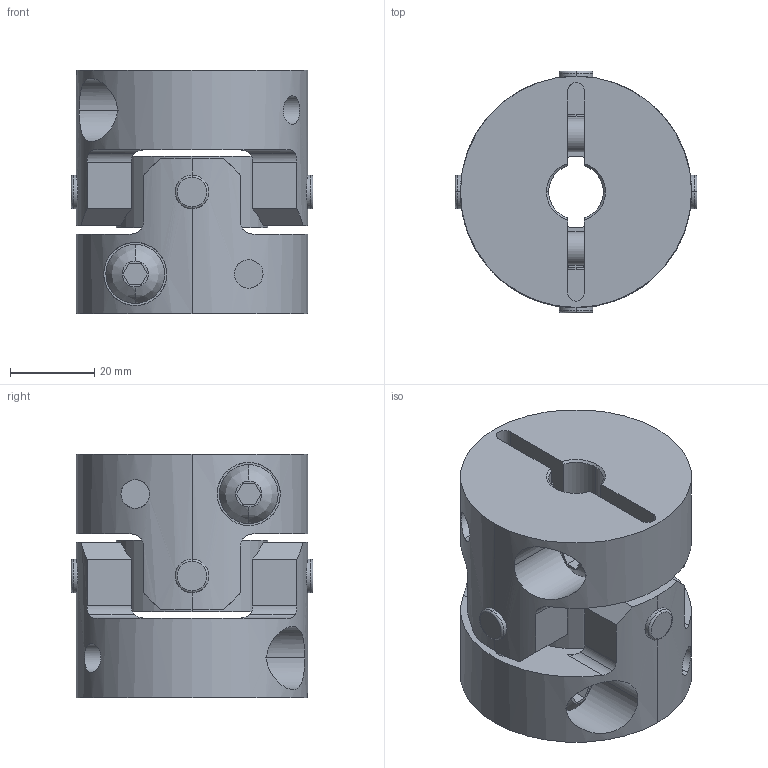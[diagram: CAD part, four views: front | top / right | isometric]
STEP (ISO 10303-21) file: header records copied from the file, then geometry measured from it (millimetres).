
FILE_DESCRIPTION((''),'2;1');
FILE_NAME('UA-55C-13×17.stp','2013-05-22T12:00:13',(''),(''),'AutoCAD STEP 2000i','AutoCAD 2000i',', , ');
FILE_SCHEMA(('CONFIG_CONTROL_DESIGN'));
Length unit declared in the file: millimetre
Products named in the file (6): UA-55C-10×10; 忣兜1; UA-5502-D10-1; BTN-M8; UA-5502-D10; UA55-SEN
Assembly tree (6 placements, depth 3):
  UA-55C-10×10
    忣兜1
    UA-5502-D10-1
      BTN-M8
    UA-5502-D10
      BTN-M8
    UA55-SEN
Bounding box: 57.55 x 57.55 x 58 mm (x, y, z)
Volume: 98789.6 mm3; surface area: 31780.4 mm2
Topology: 1 solids, 1 shells, 206 faces, 554 edges, 364 vertices
Faces by surface type: cylinder 96, plane 78, cone 16, bspline 8, torus 8
Entity records: 8383 total; most frequent: CARTESIAN_POINT 3067, ORIENTED_EDGE 1108, DIRECTION 1064, EDGE_CURVE 554, AXIS2_PLACEMENT_3D 409, VERTEX_POINT 364, VECTOR 246, LINE 246
